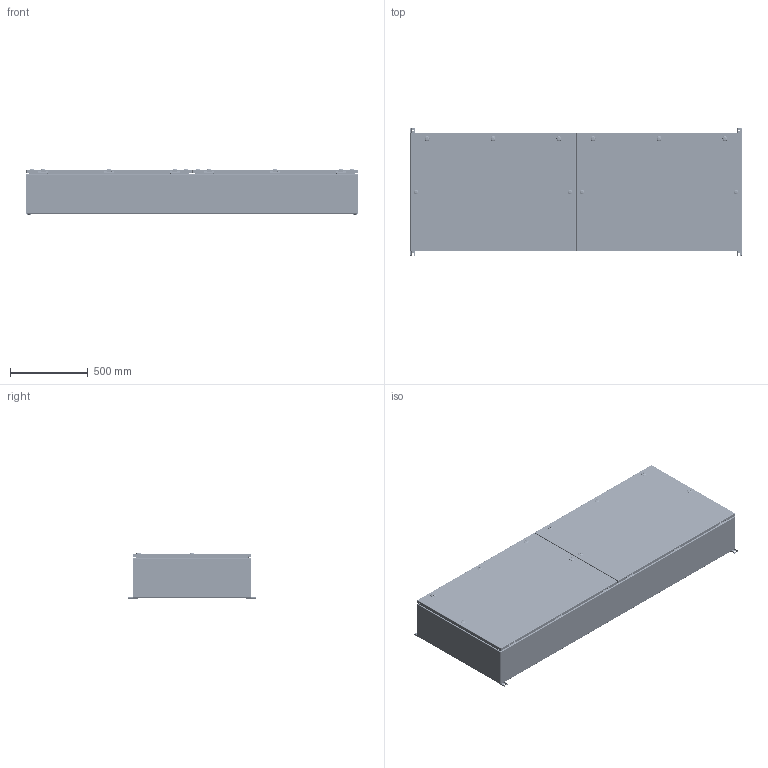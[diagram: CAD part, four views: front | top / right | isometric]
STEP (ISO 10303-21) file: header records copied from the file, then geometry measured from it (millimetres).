
FILE_DESCRIPTION(/* description */ ('1412BTCU 2500A - 3 Wires x 84" Assembly'),/* implementation_level */ '2;1');
FILE_NAME(/* name */ 'C:\Vault_Workspace\Inventor_Dwg\BoxCad\Result\1412BTCU072503DT\e-mail\3D\1412BTCU072503DT.stp',/* time_stamp */ '2022-10-24T15:32:02-04:00',/* author */ ('BoxCad'),/* organization */ (''),/* preprocessor_version */ 'ST-DEVELOPER v18.1',/* originating_system */ 'Autodesk Inventor 2020',/* authorisation */ '');
FILE_SCHEMA (('AUTOMOTIVE_DESIGN { 1 0 10303 214 3 1 1 }'));
Products named in the file (68): 1412BTCU072503DT; 1412BTCU072503DTB; 1412BTCU072503DTB-P; 1412BTCU072503DTE-P; STK-Q-16005; iLogic_STK-G-00701; STK-Q-00260; STK-Q-07220-1; STK-Q-07220-A; STK-Q-07220-B; 1412BTCU072503DTC; 1412BTCU072503DTC-P; 1412BTCU072503DTF-P; 1412BTCU072503DTG; STK-Q-16080; STK-K-09800; STK-Q-33014; STK-Q-90398; STK-Q-40095; STK-Q-63410; STK-S-00100; STK-P-02400S; STK-A-880SCQ4-SL-1; STK-A-880SCQ4-SL-2; STK-A-880SCQ4-SL-3; STK-A-880SCQ4-SL-4; STK-A-880SCQ4-SL-5; STK-A-880SCQ4-SL-6; STK-Q-78140; STK-A-880SCQ4-SL-7; STK-A-880SCQ4-SL-8; STK-A-880SCQ4-SL-9; STK-A-880SCQ4-SL-10; STK-Q-78110; STK-Q-78120; STK-Q-78145; STK-Q-03200; STK-Q-78125; STK-Q-78141; STK-Q-90390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
Assembly tree (225 placements, depth 4):
  1412BTCU072503DT
    1412BTCU072503DTB
      1412BTCU072503DTB-P
      1412BTCU072503DTE-P
      STK-Q-16080  x2
      STK-Q-16005  x10
      iLogic_STK-G-00701
      STK-Q-00260  x10
      STK-Q-07220-1  x10
        STK-Q-07220-A
        STK-Q-07220-B
      STK-S-00100
      STK-P-02400S
    1412BTCU072503DTC
      1412BTCU072503DTC-P
      1412BTCU072503DTF-P
      1412BTCU072503DTG  x2
      STK-Q-16080  x2
      STK-K-09800  x6
        STK-Q-33014
        STK-Q-90398
        STK-Q-40095
        STK-Q-63410
      STK-S-00100
      STK-P-02400S
      STK-A-880SCQ4-SL-1
        STK-Q-78110
        STK-Q-78120
        STK-Q-78145
        STK-Q-03200
        STK-Q-78125
        STK-Q-78141
        STK-Q-90390
        STK-Q-78160
      STK-A-880SCQ4-SL-2
        STK-Q-78110
        STK-Q-78120
        STK-Q-78145
        STK-Q-03200
        STK-Q-78125
        STK-Q-78141
        STK-Q-90390
        STK-Q-78160
      STK-A-880SCQ4-SL-3
        STK-Q-78110
        STK-Q-78120
        STK-Q-78145
        STK-Q-03200
        STK-Q-78125
        STK-Q-78141
        STK-Q-90390
        STK-Q-78160
      STK-A-880SCQ4-SL-4
        STK-Q-78110
        STK-Q-78120
        STK-Q-78145
        STK-Q-03200
        STK-Q-78125
        STK-Q-78141
        STK-Q-90390
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Bounding box: 2133.6 x 819.15 x 294.19 mm (x, y, z)
Volume: 20916241.9 mm3; surface area: 14222318.5 mm2
Topology: 289 solids, 289 shells, 40199 faces, 104745 edges, 65166 vertices
Faces by surface type: plane 14957, bspline 10812, cylinder 9908, torus 2956, sphere 914, cone 652
Full cylindrical faces by diameter (mm): 0.75 x14, 0.762 x14, 1 x24, 1.1 x24, 3.2 x12, 4.5 x36, 4.521 x24, 4.85 x48, 4.95 x12, 5 x10, 5.1 x146, 5.105 x30, 5.6 x6, 5.9 x266, 6.65 x19, 6.8 x10, 6.85 x68, 7.3 x6, 7.366 x8, 7.8 x369, 7.9 x10, 8 x50, 8.25 x18, 8.382 x6, 8.6 x12, 9.5 x10, 9.6 x10, 9.7 x48, 9.906 x4, 10 x10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
Entity records: 225983 total; most frequent: CARTESIAN_POINT 86479, ORIENTED_EDGE 30348, DIRECTION 25549, EDGE_CURVE 15174, VERTEX_POINT 9635, AXIS2_PLACEMENT_3D 8921, LINE 7707, VECTOR 7707
